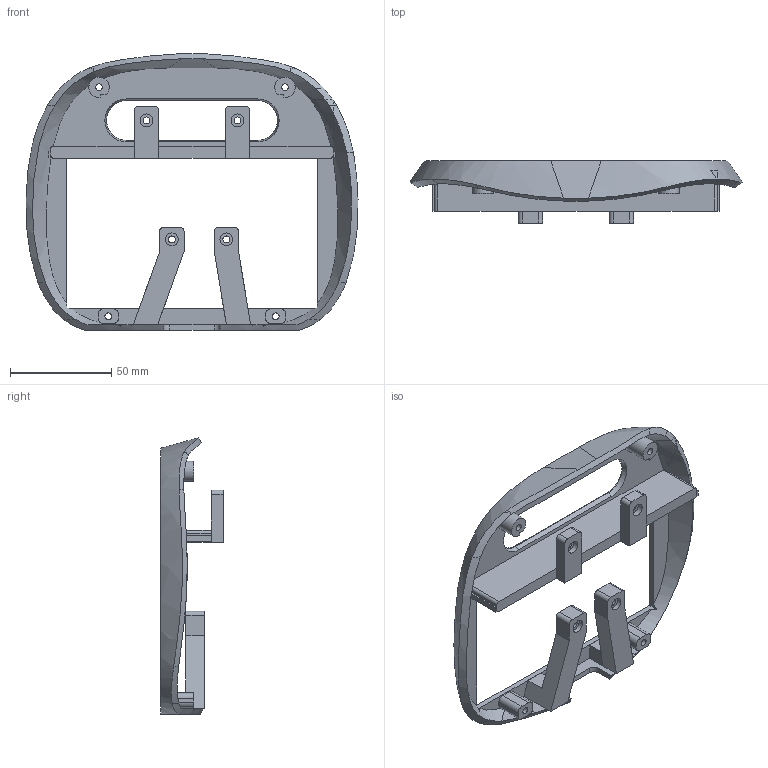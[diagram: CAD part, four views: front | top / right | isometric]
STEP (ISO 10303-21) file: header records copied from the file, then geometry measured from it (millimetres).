
FILE_DESCRIPTION(('FreeCAD Model'),'2;1');
FILE_NAME('Open CASCADE Shape Model','2026-10-26T18:20:28',('FreeCAD'),( 'FreeCAD'),'Open CASCADE STEP processor 7.8','FreeCAD','Unknown');
FILE_SCHEMA(('AUTOMOTIVE_DESIGN { 1 0 10303 214 1 1 1 1 }'));
Length unit declared in the file: millimetre
Products named in the file (1): Open CASCADE STEP translator 7.8 6
Bounding box: 164.26 x 30.85 x 136.8 mm (x, y, z)
Volume: 67350.9 mm3; surface area: 43288.1 mm2
Topology: 1 solids, 1 shells, 180 faces, 556 edges, 387 vertices
Faces by surface type: plane 110, cylinder 44, sphere 12, bspline 10, cone 4
Full cylindrical faces by diameter (mm): 3.4 x8, 6.4 x8
Entity records: 15511 total; most frequent: CARTESIAN_POINT 10545, ORIENTED_EDGE 1112, DIRECTION 965, EDGE_CURVE 556, VERTEX_POINT 387, AXIS2_PLACEMENT_3D 350, LINE 265, VECTOR 265
